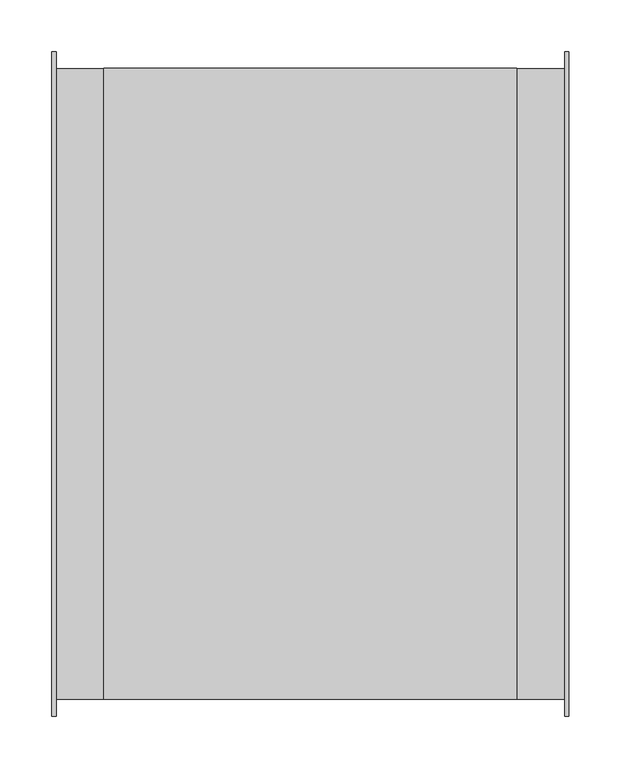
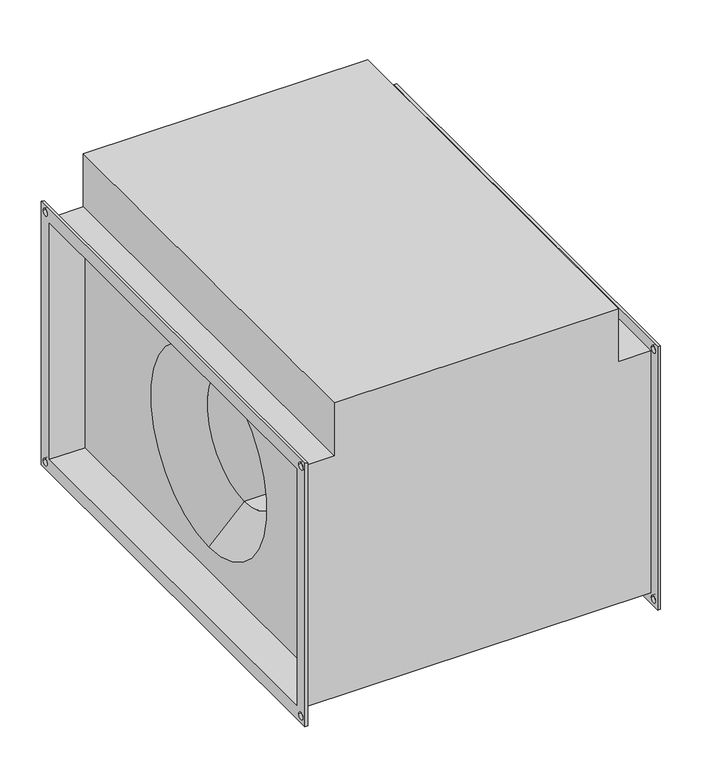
"""IFC4 building model written with IfcOpenShell, lengths in millimetres: proxy geometry, СВ_Вентилятор_КанальныйПрямоугольный_200-1000_SVPS : SVPS-600x350/28.2D."""

from ifc_helpers import new_model, si_unit, frame, origin, place, context, project, spatial, polyline, circle_curve, source, transform, mapped, element, save
from ifc_brep_helpers import plane_surface, revolved_surface, advanced_brep


def mechanical_equipment_a6f259df(model_context):
    return source(origin(), model_context, "Body", "AdvancedBrep", [
        advanced_brep(
        [(-245.0, -304.0, 179.0), (-199.0, -304.0, 179.0), (-199.0, 304.0, 179.0), (-245.0, 304.0, 179.0), (199.0, 304.0, 258.0), (199.0, -304.0, 258.0), (199.0, -304.0, 179.0), (199.0, 304.0, 179.0), (199.0, 300.0, -175.0), (199.0, 300.0, 175.0), (199.0, -300.0, 175.0), (199.0, -300.0, -175.0), (199.0, 0.0, 140.0), (199.0, 0.0, -140.0), (-199.0, 300.0, 175.0), (-199.0, 300.0, -175.0), (-199.0, -300.0, -175.0), (-199.0, -300.0, 175.0), (-199.0, 0.0, -140.0), (-199.0, 0.0, 140.0), (-199.0, -304.0, 258.0), (-199.0, 304.0, 258.0), (-245.0, -304.0, -179.0), (245.0, -304.0, -179.0), (245.0, -304.0, 179.0), (-245.0, 304.0, -179.0), (245.0, 304.0, -179.0), (245.0, 304.0, 179.0), (149.0, 0.0, -90.0), (149.0, 0.0, 90.0), (-149.0, 0.0, 90.0), (-149.0, 0.0, -90.0), (-249.0, -320.0, 195.0), (-249.0, 320.0, 195.0), (-249.0, 320.0, -195.0), (-249.0, -320.0, -195.0), (-249.0, -300.0, 175.0), (-249.0, -300.0, -175.0), (-249.0, 300.0, -175.0), (-249.0, 300.0, 175.0), (-249.0, 305.0, 185.0), (-249.0, 315.0, 185.0), (-249.0, -315.0, 185.0), (-249.0, -305.0, 185.0), (-249.0, -315.0, -185.0), (-249.0, -305.0, -185.0), (-249.0, 305.0, -185.0), (-249.0, 315.0, -185.0), (-245.0, -320.0, 195.0), (-245.0, -320.0, -195.0), (-245.0, 320.0, -195.0), (-245.0, 320.0, 195.0), (-245.0, 315.0, 185.0), (-245.0, 305.0, 185.0), (-245.0, -305.0, 185.0), (-245.0, -315.0, 185.0), (-245.0, -305.0, -185.0), (-245.0, -315.0, -185.0), (-245.0, 315.0, -185.0), (-245.0, 305.0, -185.0), (245.0, 320.0, 195.0), (245.0, 320.0, -195.0), (245.0, -320.0, -195.0), (245.0, -320.0, 195.0), (245.0, 305.0, 185.0), (245.0, 315.0, 185.0), (245.0, -315.0, 185.0), (245.0, -305.0, 185.0), (245.0, -315.0, -185.0), (245.0, -305.0, -185.0), (245.0, 305.0, -185.0), (245.0, 315.0, -185.0), (249.0, 320.0, 195.0), (249.0, -320.0, 195.0), (249.0, -320.0, -195.0), (249.0, 320.0, -195.0), (249.0, 300.0, 175.0), (249.0, 300.0, -175.0), (249.0, -300.0, -175.0), (249.0, -300.0, 175.0), (249.0, 315.0, 185.0), (249.0, 305.0, 185.0), (249.0, -305.0, 185.0), (249.0, -315.0, 185.0), (249.0, -305.0, -185.0), (249.0, -315.0, -185.0), (249.0, 315.0, -185.0), (249.0, 305.0, -185.0)],
        [
            (0, 1),
            (1, 2),
            (2, 3),
            (3, 0),
            (4, 5),
            (5, 6),
            (6, 7),
            (7, 4),
            (8, 9),
            (9, 10),
            (10, 11),
            (11, 8),
            (12, 13, circle_curve(frame((199.0, 0.0, 0.0), z_axis=(-1.0, 0.0, 0.0), x_axis=(0.0, 0.0, 1.0)), 140.0)),
            (13, 12, circle_curve(frame((199.0, 0.0, 0.0), z_axis=(-1.0, 0.0, 0.0), x_axis=(0.0, 0.0, 1.0)), 140.0)),
            (14, 15),
            (15, 16),
            (16, 17),
            (17, 14),
            (18, 19, circle_curve(frame((-199.0, 0.0, 0.0), z_axis=(1.0, 0.0, 0.0), x_axis=(0.0, 0.0, 1.0)), 140.0)),
            (19, 18, circle_curve(frame((-199.0, 0.0, 0.0), z_axis=(1.0, 0.0, 0.0), x_axis=(0.0, 0.0, 1.0)), 140.0)),
            (20, 21),
            (21, 2),
            (1, 20),
            (5, 20),
            (0, 22),
            (22, 23),
            (23, 24),
            (24, 6),
            (22, 25),
            (25, 26),
            (26, 23),
            (21, 4),
            (7, 27),
            (27, 26),
            (25, 3),
            (24, 27),
            (28, 13),
            (12, 29),
            (29, 28, circle_curve(frame((149.0, 0.0, 0.0), z_axis=(-1.0, 0.0, 0.0), x_axis=(0.0, 0.0, 1.0)), 90.0)),
            (28, 29, circle_curve(frame((149.0, 0.0, 0.0), z_axis=(-1.0, 0.0, 0.0), x_axis=(0.0, 0.0, 1.0)), 90.0)),
            (29, 30),
            (30, 31, circle_curve(frame((-149.0, 0.0, 0.0), z_axis=(-1.0, 0.0, 0.0), x_axis=(0.0, 0.0, 1.0)), 90.0)),
            (31, 28),
            (31, 30, circle_curve(frame((-149.0, 0.0, 0.0), z_axis=(-1.0, 0.0, 0.0), x_axis=(0.0, 0.0, 1.0)), 90.0)),
            (30, 19),
            (18, 31),
            (32, 33),
            (33, 34),
            (34, 35),
            (35, 32),
            (36, 37),
            (37, 38),
            (38, 39),
            (39, 36),
            (40, 41, circle_curve(frame((-249.0, 310.0, 185.0), z_axis=(1.0, 0.0, 0.0), x_axis=(0.0, 1.0, 0.0)), 5.0)),
            (41, 40, circle_curve(frame((-249.0, 310.0, 185.0), z_axis=(1.0, 0.0, 0.0), x_axis=(0.0, 1.0, 0.0)), 5.0)),
            (42, 43, circle_curve(frame((-249.0, -310.0, 185.0), z_axis=(1.0, 0.0, 0.0), x_axis=(0.0, 1.0, 0.0)), 5.0)),
            (43, 42, circle_curve(frame((-249.0, -310.0, 185.0), z_axis=(1.0, 0.0, 0.0), x_axis=(0.0, 1.0, 0.0)), 5.0)),
            (44, 45, circle_curve(frame((-249.0, -310.0, -185.0), z_axis=(1.0, 0.0, 0.0), x_axis=(0.0, 1.0, 0.0)), 5.0)),
            (45, 44, circle_curve(frame((-249.0, -310.0, -185.0), z_axis=(1.0, 0.0, 0.0), x_axis=(0.0, 1.0, 0.0)), 5.0)),
            (46, 47, circle_curve(frame((-249.0, 310.0, -185.0), z_axis=(1.0, 0.0, 0.0), x_axis=(0.0, 1.0, 0.0)), 5.0)),
            (47, 46, circle_curve(frame((-249.0, 310.0, -185.0), z_axis=(1.0, 0.0, 0.0), x_axis=(0.0, 1.0, 0.0)), 5.0)),
            (48, 49),
            (49, 50),
            (50, 51),
            (51, 48),
            (52, 53, circle_curve(frame((-245.0, 310.0, 185.0), z_axis=(-1.0, 0.0, 0.0), x_axis=(0.0, 1.0, 0.0)), 5.0)),
            (53, 52, circle_curve(frame((-245.0, 310.0, 185.0), z_axis=(-1.0, 0.0, 0.0), x_axis=(0.0, 1.0, 0.0)), 5.0)),
            (54, 55, circle_curve(frame((-245.0, -310.0, 185.0), z_axis=(-1.0, 0.0, 0.0), x_axis=(0.0, 1.0, 0.0)), 5.0)),
            (55, 54, circle_curve(frame((-245.0, -310.0, 185.0), z_axis=(-1.0, 0.0, 0.0), x_axis=(0.0, 1.0, 0.0)), 5.0)),
            (56, 57, circle_curve(frame((-245.0, -310.0, -185.0), z_axis=(-1.0, 0.0, 0.0), x_axis=(0.0, 1.0, 0.0)), 5.0)),
            (57, 56, circle_curve(frame((-245.0, -310.0, -185.0), z_axis=(-1.0, 0.0, 0.0), x_axis=(0.0, 1.0, 0.0)), 5.0)),
            (58, 59, circle_curve(frame((-245.0, 310.0, -185.0), z_axis=(-1.0, 0.0, 0.0), x_axis=(0.0, 1.0, 0.0)), 5.0)),
            (59, 58, circle_curve(frame((-245.0, 310.0, -185.0), z_axis=(-1.0, 0.0, 0.0), x_axis=(0.0, 1.0, 0.0)), 5.0)),
            (35, 49),
            (48, 32),
            (34, 50),
            (33, 51),
            (60, 61),
            (61, 62),
            (62, 63),
            (63, 60),
            (64, 65, circle_curve(frame((245.0, 310.0, 185.0), z_axis=(1.0, 0.0, 0.0), x_axis=(0.0, 1.0, 0.0)), 5.0)),
            (65, 64, circle_curve(frame((245.0, 310.0, 185.0), z_axis=(1.0, 0.0, 0.0), x_axis=(0.0, 1.0, 0.0)), 5.0)),
            (66, 67, circle_curve(frame((245.0, -310.0, 185.0), z_axis=(1.0, 0.0, 0.0), x_axis=(0.0, 1.0, 0.0)), 5.0)),
            (67, 66, circle_curve(frame((245.0, -310.0, 185.0), z_axis=(1.0, 0.0, 0.0), x_axis=(0.0, 1.0, 0.0)), 5.0)),
            (68, 69, circle_curve(frame((245.0, -310.0, -185.0), z_axis=(1.0, 0.0, 0.0), x_axis=(0.0, 1.0, 0.0)), 5.0)),
            (69, 68, circle_curve(frame((245.0, -310.0, -185.0), z_axis=(1.0, 0.0, 0.0), x_axis=(0.0, 1.0, 0.0)), 5.0)),
            (70, 71, circle_curve(frame((245.0, 310.0, -185.0), z_axis=(1.0, 0.0, 0.0), x_axis=(0.0, 1.0, 0.0)), 5.0)),
            (71, 70, circle_curve(frame((245.0, 310.0, -185.0), z_axis=(1.0, 0.0, 0.0), x_axis=(0.0, 1.0, 0.0)), 5.0)),
            (72, 73),
            (73, 74),
            (74, 75),
            (75, 72),
            (76, 77),
            (77, 78),
            (78, 79),
            (79, 76),
            (80, 81, circle_curve(frame((249.0, 310.0, 185.0), z_axis=(-1.0, 0.0, 0.0), x_axis=(0.0, 1.0, 0.0)), 5.0)),
            (81, 80, circle_curve(frame((249.0, 310.0, 185.0), z_axis=(-1.0, 0.0, 0.0), x_axis=(0.0, 1.0, 0.0)), 5.0)),
            (82, 83, circle_curve(frame((249.0, -310.0, 185.0), z_axis=(-1.0, 0.0, 0.0), x_axis=(0.0, 1.0, 0.0)), 5.0)),
            (83, 82, circle_curve(frame((249.0, -310.0, 185.0), z_axis=(-1.0, 0.0, 0.0), x_axis=(0.0, 1.0, 0.0)), 5.0)),
            (84, 85, circle_curve(frame((249.0, -310.0, -185.0), z_axis=(-1.0, 0.0, 0.0), x_axis=(0.0, 1.0, 0.0)), 5.0)),
            (85, 84, circle_curve(frame((249.0, -310.0, -185.0), z_axis=(-1.0, 0.0, 0.0), x_axis=(0.0, 1.0, 0.0)), 5.0)),
            (86, 87, circle_curve(frame((249.0, 310.0, -185.0), z_axis=(-1.0, 0.0, 0.0), x_axis=(0.0, 1.0, 0.0)), 5.0)),
            (87, 86, circle_curve(frame((249.0, 310.0, -185.0), z_axis=(-1.0, 0.0, 0.0), x_axis=(0.0, 1.0, 0.0)), 5.0)),
            (63, 73),
            (72, 60),
            (62, 74),
            (61, 75),
            (39, 14),
            (17, 36),
            (38, 15),
            (37, 16),
            (76, 9),
            (8, 77),
            (11, 78),
            (10, 79),
            (40, 53),
            (52, 41),
            (64, 81),
            (80, 65),
            (42, 55),
            (54, 43),
            (66, 83),
            (82, 67),
            (44, 57),
            (56, 45),
            (68, 85),
            (84, 69),
            (46, 59),
            (58, 47),
            (70, 87),
            (86, 71),
        ],
        [
            plane_surface(frame((-199.0, 304.0, 179.0), z_axis=(0.0, 0.0, 1.0), x_axis=(-1.0, 0.0, 0.0))),
            plane_surface(frame((199.0, -304.0, 258.0), z_axis=(1.0, 0.0, 0.0), x_axis=(0.0, 0.0, -1.0))),
            plane_surface(frame((-199.0, -304.0, 258.0), z_axis=(-1.0, 0.0, 0.0), x_axis=(0.0, 0.0, 1.0))),
            plane_surface(frame((199.0, -304.0, 258.0), z_axis=(0.0, -1.0, 0.0), x_axis=(-1.0, 0.0, 0.0))),
            plane_surface(frame((199.0, -304.0, -179.0), z_axis=(0.0, 0.0, -1.0), x_axis=(-1.0, 0.0, 0.0))),
            plane_surface(frame((199.0, 304.0, -179.0), z_axis=(0.0, 1.0, 0.0), x_axis=(-1.0, 0.0, 0.0))),
            plane_surface(frame((199.0, 304.0, 258.0), z_axis=(0.0, 0.0, 1.0), x_axis=(-1.0, 0.0, 0.0))),
            plane_surface(frame((245.0, 304.0, 179.0), z_axis=(0.0, 0.0, 1.0), x_axis=(-1.0, 0.0, 0.0))),
            revolved_surface(polyline([(149.0, 0.0, 90.0), (199.0, 0.0, 140.0)]), (-636.0617897, 0.0, 0.0), (-1.0, 0.0, 0.0)),
            revolved_surface(polyline([(-149.0, 0.0, 90.0), (149.0, 0.0, 90.0)]), (-636.0617897, 0.0, 0.0), (-1.0, 0.0, 0.0)),
            revolved_surface(polyline([(-199.0, 0.0, 140.0), (-149.0, 0.0, 90.0)]), (-636.0617897, 0.0, 0.0), (-1.0, 0.0, 0.0)),
            plane_surface(frame((-249.0, -320.0, 195.0), z_axis=(-1.0, 0.0, 0.0), x_axis=(0.0, 0.0, 1.0))),
            plane_surface(frame((-245.0, -320.0, 195.0), z_axis=(1.0, 0.0, 0.0), x_axis=(0.0, 0.0, -1.0))),
            plane_surface(frame((-245.0, -320.0, 195.0), z_axis=(0.0, -1.0, 0.0), x_axis=(-1.0, 0.0, 0.0))),
            plane_surface(frame((-245.0, -320.0, -195.0), z_axis=(0.0, 0.0, -1.0), x_axis=(-1.0, 0.0, 0.0))),
            plane_surface(frame((-245.0, 320.0, -195.0), z_axis=(0.0, 1.0, 0.0), x_axis=(-1.0, 0.0, 0.0))),
            plane_surface(frame((-245.0, 320.0, 195.0), z_axis=(0.0, 0.0, 1.0), x_axis=(-1.0, 0.0, 0.0))),
            plane_surface(frame((245.0, 300.0, -175.0), z_axis=(-1.0, 0.0, 0.0), x_axis=(0.0, 0.0, 1.0))),
            plane_surface(frame((249.0, 300.0, -175.0), z_axis=(1.0, 0.0, 0.0), x_axis=(0.0, 0.0, -1.0))),
            plane_surface(frame((249.0, 320.0, 195.0), z_axis=(0.0, 0.0, 1.0), x_axis=(-1.0, 0.0, 0.0))),
            plane_surface(frame((249.0, -320.0, 195.0), z_axis=(0.0, -1.0, 0.0), x_axis=(-1.0, 0.0, 0.0))),
            plane_surface(frame((249.0, -320.0, -195.0), z_axis=(0.0, 0.0, -1.0), x_axis=(-1.0, 0.0, 0.0))),
            plane_surface(frame((249.0, 320.0, -195.0), z_axis=(0.0, 1.0, 0.0), x_axis=(-1.0, 0.0, 0.0))),
            plane_surface(frame((-245.0, -300.0, 175.0), z_axis=(0.0, 0.0, -1.0), x_axis=(-1.0, 0.0, 0.0))),
            plane_surface(frame((-245.0, 300.0, 175.0), z_axis=(0.0, -1.0, 0.0), x_axis=(-1.0, 0.0, 0.0))),
            plane_surface(frame((-245.0, 300.0, -175.0), z_axis=(0.0, 0.0, 1.0), x_axis=(-1.0, 0.0, 0.0))),
            plane_surface(frame((-245.0, -300.0, -175.0), z_axis=(0.0, 1.0, 0.0), x_axis=(-1.0, 0.0, 0.0))),
            plane_surface(frame((249.0, 300.0, 175.0), z_axis=(0.0, -1.0, 0.0), x_axis=(-1.0, 0.0, 0.0))),
            plane_surface(frame((249.0, 300.0, -175.0), z_axis=(0.0, 0.0, 1.0), x_axis=(-1.0, 0.0, 0.0))),
            plane_surface(frame((249.0, -300.0, -175.0), z_axis=(0.0, 1.0, 0.0), x_axis=(-1.0, 0.0, 0.0))),
            plane_surface(frame((249.0, -300.0, 175.0), z_axis=(0.0, 0.0, -1.0), x_axis=(-1.0, 0.0, 0.0))),
            revolved_surface(polyline([(-245.0, 315.0, 185.0), (-249.0, 315.0, 185.0)]), (-249.0, 310.0, 185.0), (1.0, 0.0, 0.0)),
            revolved_surface(polyline([(249.0, 315.0, 185.0), (245.0, 315.0, 185.0)]), (-249.0, 310.0, 185.0), (1.0, 0.0, 0.0)),
            revolved_surface(polyline([(-245.0, -305.0, 185.0), (-249.0, -305.0, 185.0)]), (0.0, -310.0, 185.0), (1.0, 0.0, 0.0)),
            revolved_surface(polyline([(249.0, -305.0, 185.0), (245.0, -305.0, 185.0)]), (0.0, -310.0, 185.0), (1.0, 0.0, 0.0)),
            revolved_surface(polyline([(-245.0, -305.0, -185.0), (-249.0, -305.0, -185.0)]), (0.0, -310.0, -185.0), (1.0, 0.0, 0.0)),
            revolved_surface(polyline([(249.0, -305.0, -185.0), (245.0, -305.0, -185.0)]), (0.0, -310.0, -185.0), (1.0, 0.0, 0.0)),
            revolved_surface(polyline([(-245.0, 315.0, -185.0), (-249.0, 315.0, -185.0)]), (0.0, 310.0, -185.0), (1.0, 0.0, 0.0)),
            revolved_surface(polyline([(249.0, 315.0, -185.0), (245.0, 315.0, -185.0)]), (0.0, 310.0, -185.0), (1.0, 0.0, 0.0)),
        ],
        [
            (0, [[1, 2, 3, 4]]),
            (1, [[5, 6, 7, 8]]),
            (1, [[9, 10, 11, 12], [13, 14]]),
            (2, [[15, 16, 17, 18], [19, 20]]),
            (2, [[21, 22, -2, 23]]),
            (3, [[24, -23, -1, 25, 26, 27, 28, -6]]),
            (4, [[-26, 29, 30, 31]]),
            (5, [[32, -8, 33, 34, -30, 35, -3, -22]]),
            (6, [[-5, -32, -21, -24]]),
            (7, [[-28, 36, -33, -7]]),
            (8, [[37, -13, 38, 39]]),
            (8, [[-37, 40, -38, -14]]),
            (9, [[-39, 41, 42, 43]]),
            (9, [[-40, -43, 44, -41]]),
            (10, [[-42, 45, -19, 46]]),
            (10, [[-44, -46, -20, -45]]),
            (11, [[47, 48, 49, 50], [51, 52, 53, 54], [55, 56], [57, 58], [59, 60], [61, 62]]),
            (12, [[63, 64, 65, 66], [-25, -4, -35, -29], [67, 68], [69, 70], [71, 72], [73, 74]]),
            (13, [[-50, 75, -63, 76]]),
            (14, [[-49, 77, -64, -75]]),
            (15, [[-48, 78, -65, -77]]),
            (16, [[-47, -76, -66, -78]]),
            (17, [[79, 80, 81, 82], [-27, -31, -34, -36], [83, 84], [85, 86], [87, 88], [89, 90]]),
            (18, [[91, 92, 93, 94], [95, 96, 97, 98], [99, 100], [101, 102], [103, 104], [105, 106]]),
            (19, [[-82, 107, -91, 108]]),
            (20, [[-81, 109, -92, -107]]),
            (21, [[-80, 110, -93, -109]]),
            (22, [[-79, -108, -94, -110]]),
            (23, [[-54, 111, -18, 112]]),
            (24, [[-53, 113, -15, -111]]),
            (25, [[-52, 114, -16, -113]]),
            (26, [[-51, -112, -17, -114]]),
            (27, [[-95, 115, -9, 116]]),
            (28, [[-96, -116, -12, 117]]),
            (29, [[-97, -117, -11, 118]]),
            (30, [[-115, -98, -118, -10]]),
            (31, [[119, -67, 120, -55]]),
            (32, [[121, -99, 122, -83]]),
            (31, [[-119, -56, -120, -68]]),
            (32, [[-121, -84, -122, -100]]),
            (33, [[123, -69, 124, -57]]),
            (34, [[125, -101, 126, -85]]),
            (33, [[-123, -58, -124, -70]]),
            (34, [[-125, -86, -126, -102]]),
            (35, [[127, -71, 128, -59]]),
            (36, [[129, -103, 130, -87]]),
            (35, [[-127, -60, -128, -72]]),
            (36, [[-129, -88, -130, -104]]),
            (37, [[131, -73, 132, -61]]),
            (38, [[133, -105, 134, -89]]),
            (37, [[-131, -62, -132, -74]]),
            (38, [[-133, -90, -134, -106]]),
        ],
    ),
    ])


if __name__ == "__main__":
    model = new_model("IFC4")
    model_context = context("Model", 3, world=origin())
    ifc_project = project(units=[si_unit("LENGTHUNIT", "METRE", prefix="MILLI")], contexts=[model_context])
    site = spatial("IfcSite", under=ifc_project)
    building = spatial("IfcBuilding", under=site)
    placement = place(None, origin())
    mechanical_equipment_shape = mechanical_equipment_a6f259df(model_context)
    element("IfcBuildingElementProxy", 1, Name="СВ_Вентилятор_КанальныйПрямоугольный_200-1000_SVPS : SVPS-600x350/28.2D", ObjectType="СВ_Вентилятор_КанальныйПрямоугольный_200-1000_SVPS : SVPS-600x350/28.2D", at=placement, inside=building, context=model_context, shape_type="MappedRepresentation", body=[
        mapped(mechanical_equipment_shape, transform((0.0, 0.0, 0.0), x_axis=(1.0, 0.0, 0.0), y_axis=(0.0, 1.0, 0.0), z_axis=(0.0, 0.0, 1.0))),
    ])
    save(model, "model.ifc")
